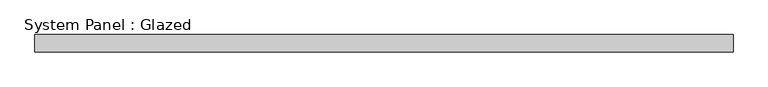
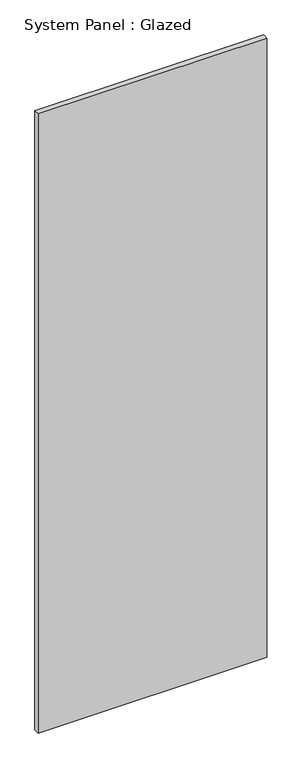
"""IFC4 building model written with IfcOpenShell, lengths in millimetres: plate geometry, System Panel : Glazed."""

from ifc_helpers import new_model, si_unit, origin, origin_with_axes, place, context, project, spatial, polyline, outline, extrude, source, transform, mapped, element, save


def system_panel_glazed_2101e6c2(model_context):
    return source(origin(), model_context, "Body", "SweptSolid", [
        extrude(outline(polyline([(503.75, -72.5), (-503.75, -72.5), (-503.75, -47.5), (503.75, -47.5), (503.75, -72.5)])), origin_with_axes(), (0.0, 0.0, 1.0), 2884.9999998),
    ])


if __name__ == "__main__":
    model = new_model("IFC4")
    model_context = context("Model", 3, world=origin())
    ifc_project = project(units=[si_unit("LENGTHUNIT", "METRE", prefix="MILLI")], contexts=[model_context])
    site = spatial("IfcSite", under=ifc_project)
    building = spatial("IfcBuilding", under=site)
    placement = place(None, origin())
    system_panel_glazed_shape = system_panel_glazed_2101e6c2(model_context)
    element("IfcPlate", 1, ObjectType="System Panel : Glazed", at=placement, inside=building, context=model_context, shape_type="MappedRepresentation", body=[
        mapped(system_panel_glazed_shape, transform((0.0, 0.0, 0.0), x_axis=(1.0, 0.0, 0.0), y_axis=(0.0, 1.0, 0.0), z_axis=(0.0, 0.0, 1.0))),
    ])
    save(model, "model.ifc")
